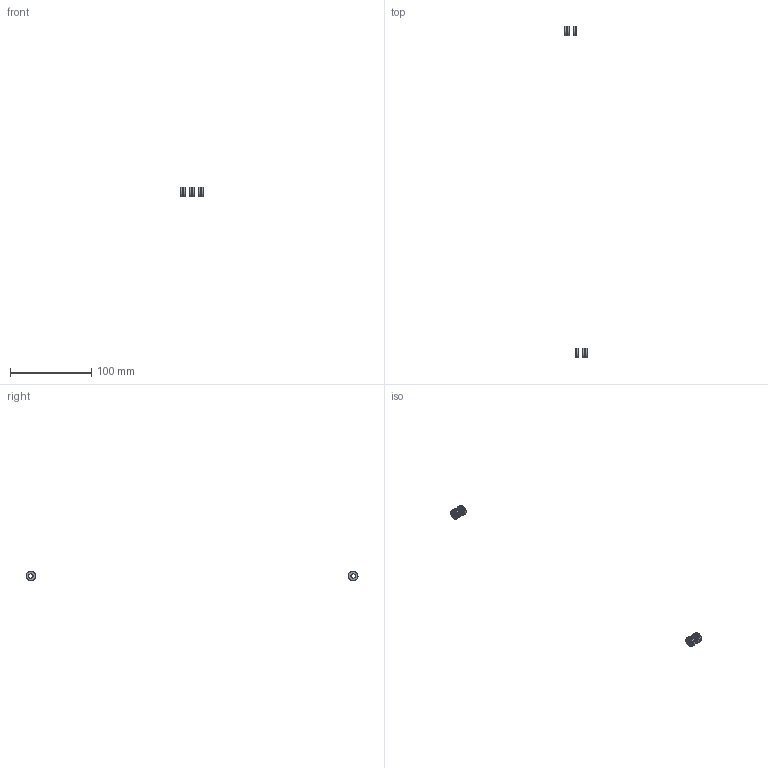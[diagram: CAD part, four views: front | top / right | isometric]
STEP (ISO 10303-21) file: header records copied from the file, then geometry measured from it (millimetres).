
FILE_DESCRIPTION(/* description */ (''),/* implementation_level */ '2;1');
FILE_NAME(/* name */ '4.frame-door#4.5#PACK-SPWFN5',/* time_stamp */ '2014-12-01T20:12:50+01:00',/* author */ (''),/* organization */ (''),/* preprocessor_version */ 'ST-DEVELOPER v14',/* originating_system */ '',/* authorisation */ '');
FILE_SCHEMA (('AUTOMOTIVE_DESIGN'));
Length unit declared in the file: millimetre
Products named in the file (2): Document; washer DIN9021-like, form G, M5
Assembly tree (10 placements, depth 2):
  Document
    washer DIN9021-like, form G, M5  x10
Bounding box: 28 x 408 x 11.99 mm (x, y, z)
Surface area: 2890.4 mm2 (no closed solid volume)
Topology: 0 solids, 60 shells, 60 faces, 200 edges, 200 vertices
Faces by surface type: bspline 40, plane 20
Entity records: 615 total; most frequent: CARTESIAN_POINT 267, DIRECTION 28, B_SPLINE_CURVE_WITH_KNOTS 24, ORIENTED_EDGE 20, PCURVE 20, DEFINITIONAL_REPRESENTATION 20, SURFACE_CURVE 20, EDGE_CURVE 20
